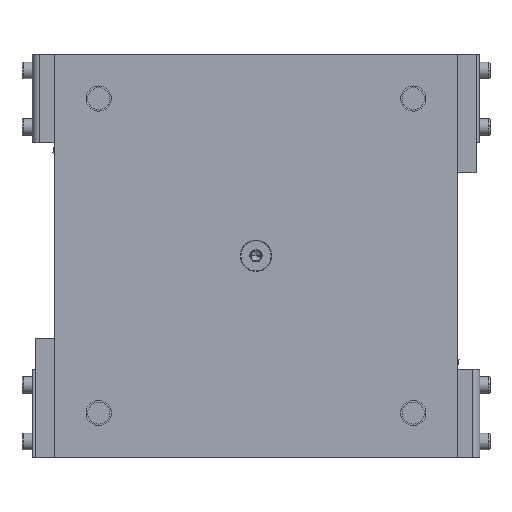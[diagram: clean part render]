
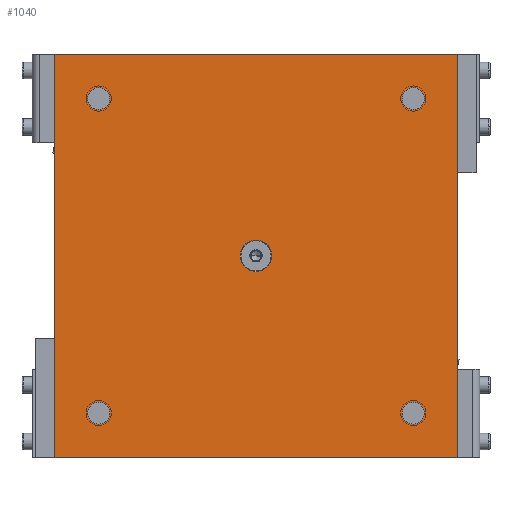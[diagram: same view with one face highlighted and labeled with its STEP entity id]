
A CAD part, top view. The second image highlights one B-rep face of the part: STEP entity #1040.
In plain terms, the highlighted planar face has unit normal (0, 0, 1).
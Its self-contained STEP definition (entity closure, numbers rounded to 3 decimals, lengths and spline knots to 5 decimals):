
#1040=ADVANCED_FACE('360:635',(#1543,#1544,#1545,#1546,#1547,#1548),#1549,.T.);
#1543=FACE_OUTER_BOUND('',#2499,.T.);
#1544=FACE_BOUND('',#2500,.T.);
#1545=FACE_BOUND('',#2501,.T.);
#1546=FACE_BOUND('',#2502,.T.);
#1547=FACE_BOUND('',#2503,.T.);
#1548=FACE_BOUND('',#2504,.T.);
#1549=PLANE('',#2505);
#2499=EDGE_LOOP('',(#3476,#3477,#3478,#3479));
#2500=EDGE_LOOP('',(#3480,#3481));
#2501=EDGE_LOOP('',(#3482,#3483));
#2502=EDGE_LOOP('',(#3484,#3485));
#2503=EDGE_LOOP('',(#3486,#3487));
#2504=EDGE_LOOP('',(#3488,#3489));
#2505=AXIS2_PLACEMENT_3D('',#3490,#3491,#3492);
#3476=ORIENTED_EDGE('',*,*,#6568,.T.);
#3477=ORIENTED_EDGE('',*,*,#6569,.T.);
#3478=ORIENTED_EDGE('',*,*,#6570,.T.);
#3479=ORIENTED_EDGE('',*,*,#6571,.T.);
#3480=ORIENTED_EDGE('',*,*,#6572,.T.);
#3481=ORIENTED_EDGE('',*,*,#6545,.T.);
#3482=ORIENTED_EDGE('',*,*,#6573,.T.);
#3483=ORIENTED_EDGE('',*,*,#6549,.T.);
#3484=ORIENTED_EDGE('',*,*,#6574,.T.);
#3485=ORIENTED_EDGE('',*,*,#6553,.T.);
#3486=ORIENTED_EDGE('',*,*,#6575,.T.);
#3487=ORIENTED_EDGE('',*,*,#6557,.T.);
#3488=ORIENTED_EDGE('',*,*,#6565,.F.);
#3489=ORIENTED_EDGE('',*,*,#6566,.F.);
#3490=CARTESIAN_POINT('',(0.0,0.0,0.015));
#3491=DIRECTION('',(0.0,0.0,1.0));
#3492=DIRECTION('',(1.0,-0.0,0.0));
#6545=EDGE_CURVE('662:244',#7553,#7557,#7559,.T.);
#6549=EDGE_CURVE('662:635',#7561,#7565,#7567,.T.);
#6553=EDGE_CURVE('662:1068',#7569,#7573,#7575,.T.);
#6557=EDGE_CURVE('662:1540',#7577,#7581,#7583,.T.);
#6565=EDGE_CURVE('669:665',#7595,#7592,#7597,.T.);
#6566=EDGE_CURVE('669:665',#7592,#7595,#7598,.T.);
#6568=EDGE_CURVE('360:656',#7600,#7601,#7602,.F.);
#6569=EDGE_CURVE('360:668',#7601,#7603,#7604,.F.);
#6570=EDGE_CURVE('360:677',#7603,#7605,#7606,.F.);
#6571=EDGE_CURVE('360:683',#7605,#7600,#7607,.F.);
#6572=EDGE_CURVE('662:244',#7557,#7553,#7608,.T.);
#6573=EDGE_CURVE('662:635',#7565,#7561,#7609,.T.);
#6574=EDGE_CURVE('662:1068',#7573,#7569,#7610,.T.);
#6575=EDGE_CURVE('662:1540',#7581,#7577,#7611,.T.);
#7553=VERTEX_POINT('',#9133);
#7557=VERTEX_POINT('',#9138);
#7559=CIRCLE('',#9141,0.00875);
#7561=VERTEX_POINT('',#9143);
#7565=VERTEX_POINT('',#9148);
#7567=CIRCLE('',#9151,0.00875);
#7569=VERTEX_POINT('',#9153);
#7573=VERTEX_POINT('',#9158);
#7575=CIRCLE('',#9161,0.00875);
#7577=VERTEX_POINT('',#9163);
#7581=VERTEX_POINT('',#9168);
#7583=CIRCLE('',#9171,0.00875);
#7592=VERTEX_POINT('',#9182);
#7595=VERTEX_POINT('',#9186);
#7597=CIRCLE('',#9189,0.0125);
#7598=CIRCLE('',#9190,0.0125);
#7600=VERTEX_POINT('',#9192);
#7601=VERTEX_POINT('',#9193);
#7602=LINE('',#9194,#9195);
#7603=VERTEX_POINT('',#9196);
#7604=LINE('',#9197,#9198);
#7605=VERTEX_POINT('',#9199);
#7606=LINE('',#9200,#9201);
#7607=LINE('',#9202,#9203);
#7608=CIRCLE('',#9204,0.00875);
#7609=CIRCLE('',#9205,0.00875);
#7610=CIRCLE('',#9206,0.00875);
#7611=CIRCLE('',#9207,0.00875);
#9133=CARTESIAN_POINT('',(0.11625,0.125,0.015));
#9138=CARTESIAN_POINT('',(0.13375,0.125,0.015));
#9141=AXIS2_PLACEMENT_3D('',#11834,#11835,#11836);
#9143=CARTESIAN_POINT('',(-0.13375,0.125,0.015));
#9148=CARTESIAN_POINT('',(-0.11625,0.125,0.015));
#9151=AXIS2_PLACEMENT_3D('',#11842,#11843,#11844);
#9153=CARTESIAN_POINT('',(-0.13375,-0.125,0.015));
#9158=CARTESIAN_POINT('',(-0.11625,-0.125,0.015));
#9161=AXIS2_PLACEMENT_3D('',#11850,#11851,#11852);
#9163=CARTESIAN_POINT('',(0.11625,-0.125,0.015));
#9168=CARTESIAN_POINT('',(0.13375,-0.125,0.015));
#9171=AXIS2_PLACEMENT_3D('',#11858,#11859,#11860);
#9182=CARTESIAN_POINT('',(0.0125,0.,0.015));
#9186=CARTESIAN_POINT('',(-0.0125,0.,0.015));
#9189=AXIS2_PLACEMENT_3D('',#11874,#11875,#11876);
#9190=AXIS2_PLACEMENT_3D('',#11877,#11878,#11879);
#9192=CARTESIAN_POINT('',(-0.16,0.16,0.015));
#9193=CARTESIAN_POINT('',(-0.16,-0.16,0.015));
#9194=CARTESIAN_POINT('',(-0.16,0.0375,0.015));
#9195=VECTOR('',#11883,1.0);
#9196=CARTESIAN_POINT('',(0.16,-0.16,0.015));
#9197=CARTESIAN_POINT('',(-0.04375,-0.16,0.015));
#9198=VECTOR('',#11884,1.0);
#9199=CARTESIAN_POINT('',(0.16,0.16,0.015));
#9200=CARTESIAN_POINT('',(0.16,-0.0375,0.015));
#9201=VECTOR('',#11885,1.0);
#9202=CARTESIAN_POINT('',(0.04375,0.16,0.015));
#9203=VECTOR('',#11886,1.0);
#9204=AXIS2_PLACEMENT_3D('',#11887,#11888,#11889);
#9205=AXIS2_PLACEMENT_3D('',#11890,#11891,#11892);
#9206=AXIS2_PLACEMENT_3D('',#11893,#11894,#11895);
#9207=AXIS2_PLACEMENT_3D('',#11896,#11897,#11898);
#11834=CARTESIAN_POINT('',(0.125,0.125,0.015));
#11835=DIRECTION('',(-0.0,0.0,-1.0));
#11836=DIRECTION('',(-1.0,0.0,0.0));
#11842=CARTESIAN_POINT('',(-0.125,0.125,0.015));
#11843=DIRECTION('',(-0.0,0.0,-1.0));
#11844=DIRECTION('',(-1.0,0.0,0.0));
#11850=CARTESIAN_POINT('',(-0.125,-0.125,0.015));
#11851=DIRECTION('',(-0.0,0.0,-1.0));
#11852=DIRECTION('',(-1.0,0.0,0.0));
#11858=CARTESIAN_POINT('',(0.125,-0.125,0.015));
#11859=DIRECTION('',(-0.0,0.0,-1.0));
#11860=DIRECTION('',(-1.0,0.0,0.0));
#11874=CARTESIAN_POINT('',(0.,0.,0.015));
#11875=DIRECTION('',(0.0,0.0,1.0));
#11876=DIRECTION('',(1.0,0.0,0.0));
#11877=CARTESIAN_POINT('',(0.,0.,0.015));
#11878=DIRECTION('',(0.0,0.0,1.0));
#11879=DIRECTION('',(1.0,0.0,0.0));
#11883=DIRECTION('',(0.,1.0,0.0));
#11884=DIRECTION('',(-1.0,0.,0.0));
#11885=DIRECTION('',(0.0,-1.0,0.0));
#11886=DIRECTION('',(1.0,0.,-0.0));
#11887=CARTESIAN_POINT('',(0.125,0.125,0.015));
#11888=DIRECTION('',(-0.0,0.0,-1.0));
#11889=DIRECTION('',(-1.0,0.0,0.0));
#11890=CARTESIAN_POINT('',(-0.125,0.125,0.015));
#11891=DIRECTION('',(-0.0,0.0,-1.0));
#11892=DIRECTION('',(-1.0,0.0,0.0));
#11893=CARTESIAN_POINT('',(-0.125,-0.125,0.015));
#11894=DIRECTION('',(-0.0,0.0,-1.0));
#11895=DIRECTION('',(-1.0,0.0,0.0));
#11896=CARTESIAN_POINT('',(0.125,-0.125,0.015));
#11897=DIRECTION('',(-0.0,0.0,-1.0));
#11898=DIRECTION('',(-1.0,0.0,0.0));
